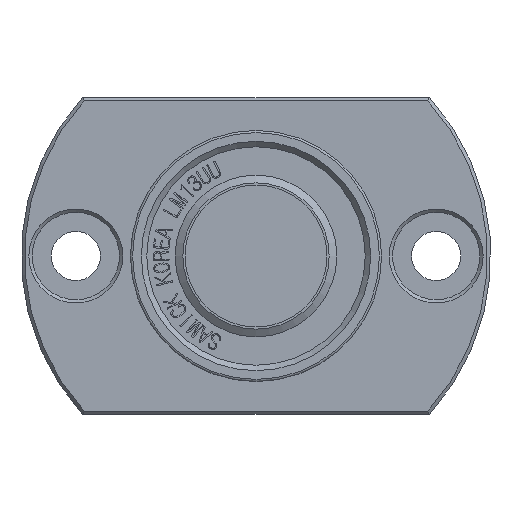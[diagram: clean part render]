
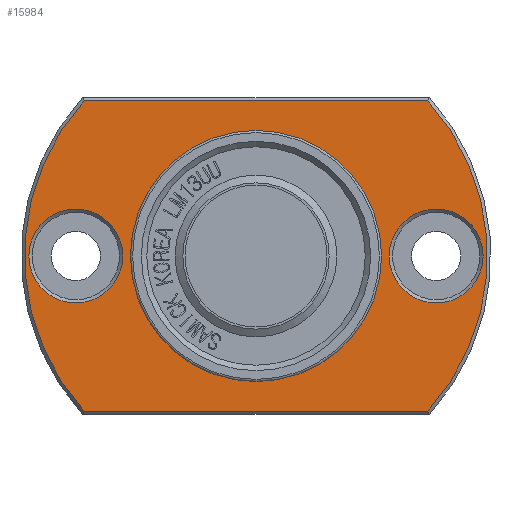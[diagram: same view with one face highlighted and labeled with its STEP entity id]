
A CAD part, front view. The second image highlights one B-rep face of the part: STEP entity #15984.
In plain terms, the highlighted planar face has unit normal (0, -1, 0).
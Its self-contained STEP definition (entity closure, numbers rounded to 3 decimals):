
#2657=FACE_BOUND('',#3805,.T.);
#2658=FACE_BOUND('',#3806,.T.);
#2659=FACE_BOUND('',#3807,.T.);
#2713=PLANE('',#16867);
#2944=FACE_OUTER_BOUND('',#3804,.T.);
#3804=EDGE_LOOP('',(#11124,#11125,#11126,#11127));
#3805=EDGE_LOOP('',(#11128));
#3806=EDGE_LOOP('',(#11129,#11130));
#3807=EDGE_LOOP('',(#11131));
#4720=LINE('',#18987,#5864);
#4721=LINE('',#18991,#5865);
#5864=VECTOR('',#17198,10.);
#5865=VECTOR('',#17201,10.);
#7007=CIRCLE('',#16864,4.3);
#7010=CIRCLE('',#16868,21.2);
#7011=CIRCLE('',#16869,21.2);
#7012=CIRCLE('',#16870,4.3);
#7013=CIRCLE('',#16871,11.5);
#7014=CIRCLE('',#16872,11.5);
#7073=VERTEX_POINT('',#18977);
#7076=VERTEX_POINT('',#18985);
#7077=VERTEX_POINT('',#18986);
#7078=VERTEX_POINT('',#18988);
#7079=VERTEX_POINT('',#18990);
#7080=VERTEX_POINT('',#18993);
#7081=VERTEX_POINT('',#18995);
#7082=VERTEX_POINT('',#18996);
#8693=EDGE_CURVE('',#7073,#7073,#7007,.T.);
#8697=EDGE_CURVE('',#7076,#7077,#4720,.T.);
#8698=EDGE_CURVE('',#7076,#7078,#7010,.T.);
#8699=EDGE_CURVE('',#7079,#7078,#4721,.T.);
#8700=EDGE_CURVE('',#7079,#7077,#7011,.T.);
#8701=EDGE_CURVE('',#7080,#7080,#7012,.T.);
#8702=EDGE_CURVE('',#7081,#7082,#7013,.T.);
#8703=EDGE_CURVE('',#7082,#7081,#7014,.T.);
#11124=ORIENTED_EDGE('',*,*,#8697,.F.);
#11125=ORIENTED_EDGE('',*,*,#8698,.T.);
#11126=ORIENTED_EDGE('',*,*,#8699,.F.);
#11127=ORIENTED_EDGE('',*,*,#8700,.T.);
#11128=ORIENTED_EDGE('',*,*,#8701,.F.);
#11129=ORIENTED_EDGE('',*,*,#8702,.F.);
#11130=ORIENTED_EDGE('',*,*,#8703,.F.);
#11131=ORIENTED_EDGE('',*,*,#8693,.F.);
#15984=ADVANCED_FACE('',(#2944,#2657,#2658,#2659),#2713,.T.);
#16864=AXIS2_PLACEMENT_3D('',#18978,#17189,#17190);
#16867=AXIS2_PLACEMENT_3D('',#18984,#17196,#17197);
#16868=AXIS2_PLACEMENT_3D('',#18989,#17199,#17200);
#16869=AXIS2_PLACEMENT_3D('',#18992,#17202,#17203);
#16870=AXIS2_PLACEMENT_3D('',#18994,#17204,#17205);
#16871=AXIS2_PLACEMENT_3D('',#18997,#17206,#17207);
#16872=AXIS2_PLACEMENT_3D('',#18998,#17208,#17209);
#17189=DIRECTION('center_axis',(0.,-1.,0.));
#17190=DIRECTION('ref_axis',(-1.,0.,0.));
#17196=DIRECTION('center_axis',(0.,-1.,0.));
#17197=DIRECTION('ref_axis',(0.,0.,-1.));
#17198=DIRECTION('',(-1.,0.,0.));
#17199=DIRECTION('center_axis',(0.,-1.,0.));
#17200=DIRECTION('ref_axis',(1.,0.,0.));
#17201=DIRECTION('',(1.,0.,0.));
#17202=DIRECTION('center_axis',(0.,-1.,0.));
#17203=DIRECTION('ref_axis',(1.,0.,0.));
#17204=DIRECTION('center_axis',(0.,-1.,0.));
#17205=DIRECTION('ref_axis',(-1.,0.,0.));
#17206=DIRECTION('center_axis',(0.,-1.,0.));
#17207=DIRECTION('ref_axis',(1.,0.,0.));
#17208=DIRECTION('center_axis',(0.,-1.,0.));
#17209=DIRECTION('ref_axis',(1.,0.,0.));
#18977=CARTESIAN_POINT('',(-12.2,-30.5,0.));
#18978=CARTESIAN_POINT('Origin',(-16.5,-30.5,0.));
#18984=CARTESIAN_POINT('Origin',(16.35,-30.5,0.));
#18985=CARTESIAN_POINT('',(15.742,-30.5,-14.2));
#18986=CARTESIAN_POINT('',(-15.742,-30.5,-14.2));
#18987=CARTESIAN_POINT('',(20.175,-30.5,-14.2));
#18988=CARTESIAN_POINT('',(15.742,-30.5,14.2));
#18989=CARTESIAN_POINT('Origin',(0.,-30.5,0.));
#18990=CARTESIAN_POINT('',(-15.742,-30.5,14.2));
#18991=CARTESIAN_POINT('',(-3.825,-30.5,14.2));
#18992=CARTESIAN_POINT('Origin',(0.,-30.5,0.));
#18993=CARTESIAN_POINT('',(20.8,-30.5,0.));
#18994=CARTESIAN_POINT('Origin',(16.5,-30.5,0.));
#18995=CARTESIAN_POINT('',(11.5,-30.5,0.));
#18996=CARTESIAN_POINT('',(-11.5,-30.5,0.));
#18997=CARTESIAN_POINT('Origin',(0.,-30.5,0.));
#18998=CARTESIAN_POINT('Origin',(0.,-30.5,0.));
